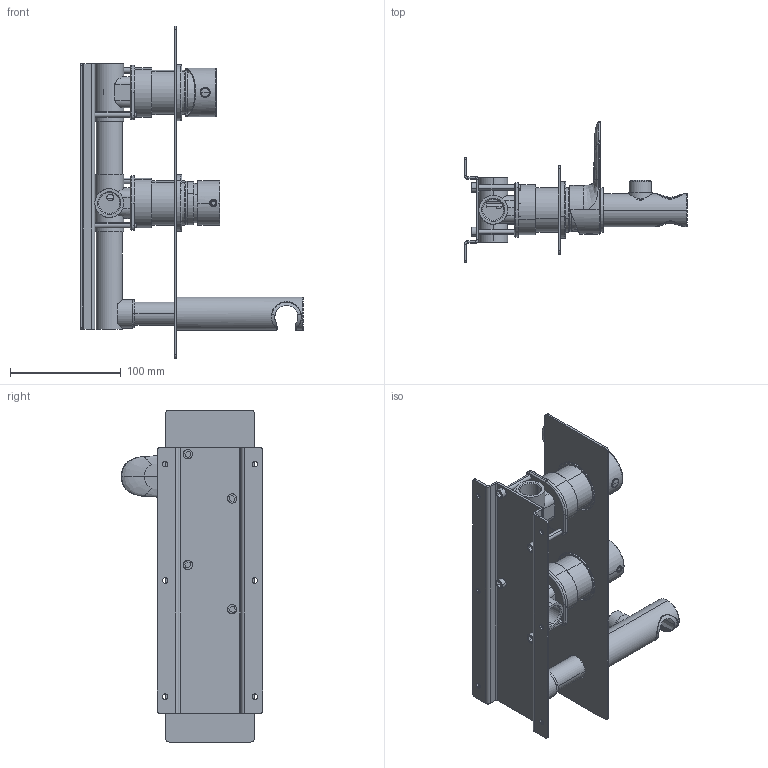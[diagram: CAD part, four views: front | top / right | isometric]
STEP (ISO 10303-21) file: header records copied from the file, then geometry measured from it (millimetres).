
FILE_DESCRIPTION (( 'STEP AP203' ), '1' );
FILE_NAME ('VIK80N.STEP', '2024-02-19T15:07:31', ( '' ), ( '' ), 'SwSTEP 2.0', 'SolidWorks 2023', '' );
FILE_SCHEMA (( 'CONFIG_CONTROL_DESIGN' ));
Length unit declared in the file: millimetre
Products named in the file (37): AS855_00; VIK80N; C11.14.0009; C25.1964.00.0; AS757_00; C25.2662.00; C24.1992.00.0; 1174G; C10.00.0011; C24.1966.00.0; C47.00.0121.0; C24.2086.00.0; C12.00.0011; 1000; C25.1173.00.0; C24.1993.00.0; C12.00.0035; C47.00.0015; C24.1965.00.0; EROGATORE VASCA E DOCCIA; C12.00.0017; C11.14.0008; VITETC5x40; ADATTATORE MEZZO; C11.14.0007; C12.00.0008; C10.00.0015; C23.1878.01; C24.2119.00.0; C25.0791.00.1; C18.11.0013.01; TUBO DI GIUNZIONE VASCA E DOCCIA; 1174; 405-40CPA GEDA; IST80; CAPP_0; C47.00.0023.01
Assembly tree (45 placements, depth 4):
  VIK80N
    IST80
      405-40CPA GEDA
        1174G
        EROGATORE VASCA E DOCCIA
        TUBO DI GIUNZIONE VASCA E DOCCIA
        1174
        ADATTATORE MEZZO
      C24.1966.00.0
      C25.1964.00.0
      C24.1965.00.0  x2
      C12.00.0008
      C12.00.0017  x2
      1000  x2
      C47.00.0015  x2
      C10.00.0015
      C10.00.0011
      VITETC5x40  x4
      C24.1993.00.0
      CAPP_0
    AS855_00
      C24.2086.00.0
      C47.00.0121.0
      C25.0791.00.1
      C12.00.0011
      C11.14.0008
    AS757_00
      C24.1992.00.0
      C25.1173.00.0
      C23.1878.01
      C11.14.0009
      C11.14.0007
      C47.00.0023.01
    C25.2662.00
    C12.00.0035  x2
    C24.2119.00.0  x2
    C18.11.0013.01
Bounding box: 201.5 x 127.5 x 300 mm (x, y, z)
Volume: 450778.1 mm3; surface area: 290270.6 mm2
Topology: 42 solids, 42 shells, 1562 faces, 3676 edges, 2299 vertices
Faces by surface type: plane 609, cylinder 588, cone 196, torus 122, bspline 47
Entity records: 44712 total; most frequent: CARTESIAN_POINT 11550, DIRECTION 6384, ORIENTED_EDGE 5802, EDGE_CURVE 2901, AXIS2_PLACEMENT_3D 2520, VERTEX_POINT 1819, EDGE_LOOP 1436, VECTOR 1344
